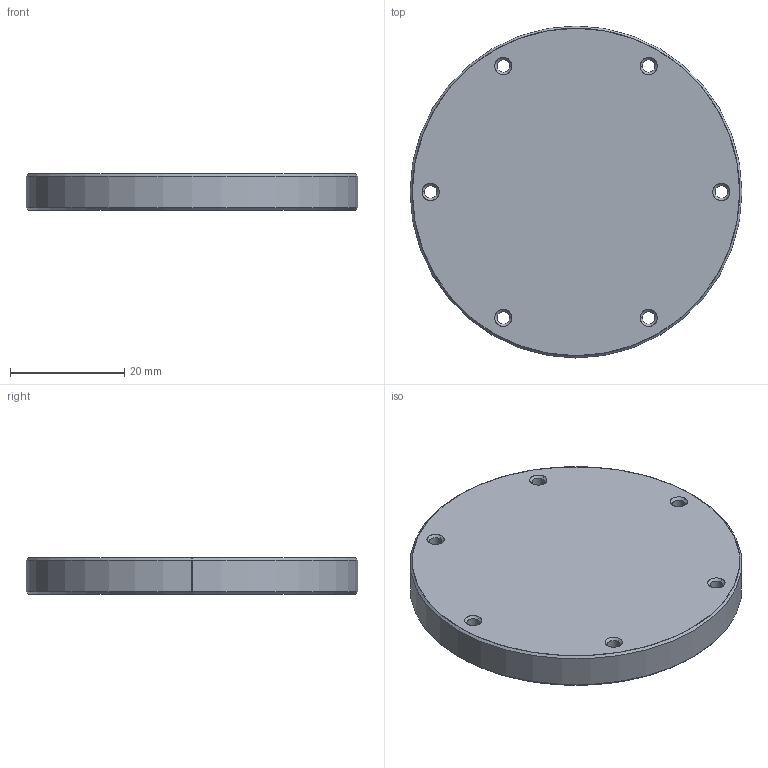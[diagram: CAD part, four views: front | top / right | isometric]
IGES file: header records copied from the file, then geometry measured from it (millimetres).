
Start section: SolidWorks IGES file using analytic representation for surfaces
Global section: file name: C:\Users\Achilles\Desktop\wte2 2020\WTE2-P-END-CAP-R2\WTE2-P-END-CAP-R2.IGS; native system: SolidWorks 2020; preprocessor: SolidWorks 2020; author: Achilles; date: 191112.110909; units: millimetre
Bounding box: 58 x 58 x 6.35 mm (x, y, z)
Surface area: 6556.2 mm2 (no closed solid volume)
Topology: 0 solids, 0 shells, 44 faces, 680 edges, 680 vertices
Faces by surface type: revolution 42, bspline 2
